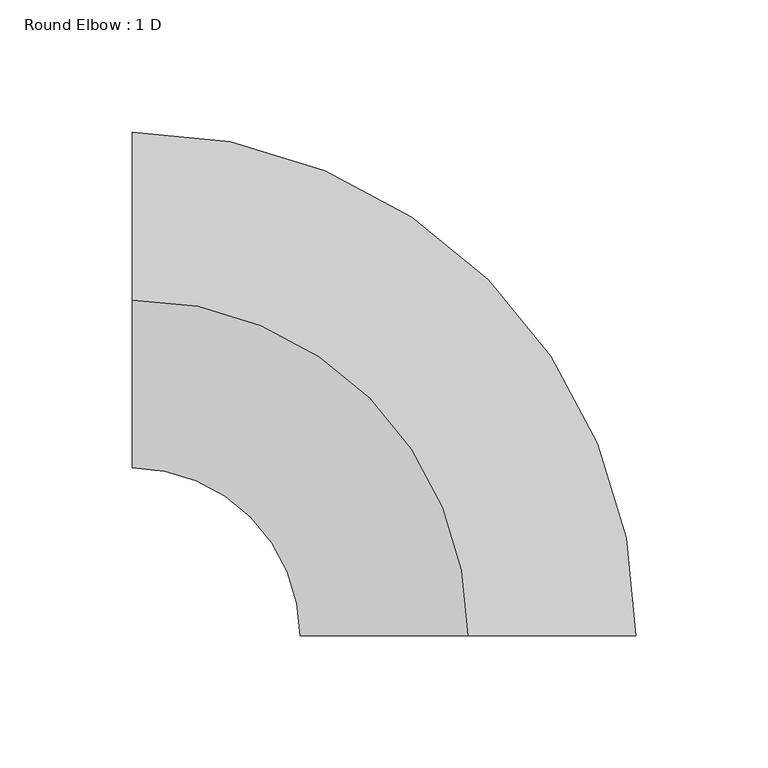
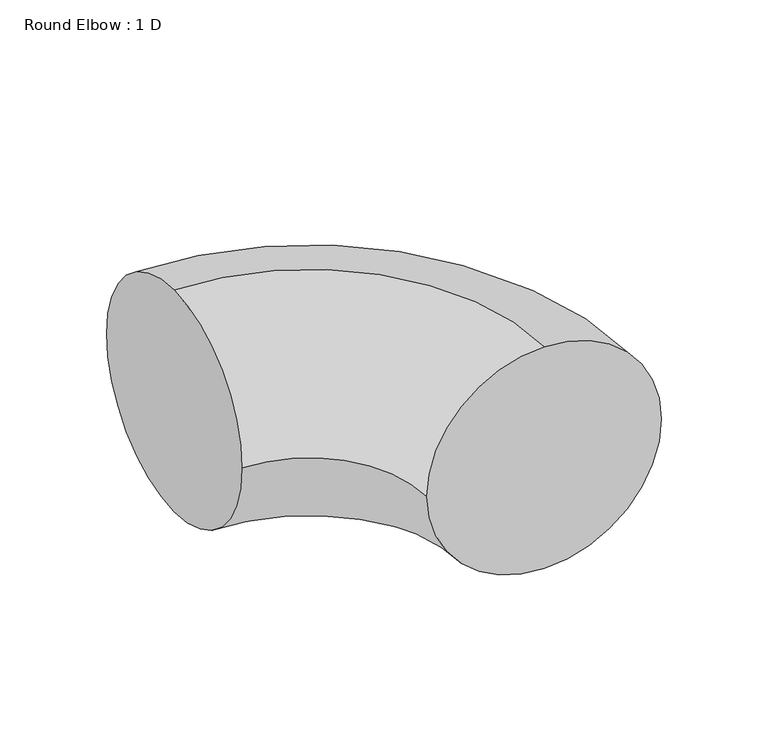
"""IFC4 building model written with IfcOpenShell, lengths in millimetres: duct fitting geometry, Round Elbow : 1 D."""

from ifc_helpers import new_model, si_unit, point, frame, origin, place, context, project, spatial, circle_curve, ellipse_curve, trimmed, source, transform, mapped, element, save
from ifc_brep_helpers import plane_surface, revolved_surface, advanced_brep


def round_elbow_1_d_400cd2ab(model_context):
    return source(origin(), model_context, "Body", "AdvancedBrep", [
        advanced_brep(
        [(-127.0, 0.0, 63.5), (-127.0, 63.5, 0.0), (-127.0, 0.0, -63.5), (-127.0, -63.5, 0.0), (0.0, -127.0, 63.5), (-63.5, -127.0, 0.0), (0.0, -127.0, -63.5), (63.5, -127.0, 0.0)],
        [
            (0, 1, circle_curve(frame((-127.0, 0.0, 0.0), z_axis=(-1.0, 0.0, 0.0), x_axis=(0.0, -1.0, 0.0)), 63.5)),
            (1, 2, circle_curve(frame((-127.0, 0.0, 0.0), z_axis=(-1.0, 0.0, 0.0), x_axis=(0.0, -1.0, 0.0)), 63.5)),
            (2, 3, circle_curve(frame((-127.0, 0.0, 0.0), z_axis=(-1.0, 0.0, 0.0), x_axis=(0.0, -1.0, 0.0)), 63.5)),
            (3, 0, circle_curve(frame((-127.0, 0.0, 0.0), z_axis=(-1.0, 0.0, 0.0), x_axis=(0.0, -1.0, 0.0)), 63.5)),
            (4, 5, circle_curve(frame((0.0, -127.0, 0.0), z_axis=(0.0, -1.0, 0.0), x_axis=(-1.0, 0.0, 0.0)), 63.5)),
            (5, 6, circle_curve(frame((0.0, -127.0, 0.0), z_axis=(0.0, -1.0, 0.0), x_axis=(-1.0, 0.0, 0.0)), 63.5)),
            (6, 7, circle_curve(frame((0.0, -127.0, 0.0), z_axis=(0.0, -1.0, 0.0), x_axis=(-1.0, 0.0, 0.0)), 63.5)),
            (7, 4, circle_curve(frame((0.0, -127.0, 0.0), z_axis=(0.0, -1.0, 0.0), x_axis=(-1.0, 0.0, 0.0)), 63.5)),
            (4, 0, circle_curve(frame((-127.0, -127.0, 63.5), z_axis=(0.0, 0.0, 1.0), x_axis=(0.0, 1.0, 0.0)), 127.0)),
            (3, 5, circle_curve(frame((-127.0, -127.0, 0.0), z_axis=(0.0, 0.0, -1.0), x_axis=(0.0, 1.0, 0.0)), 63.5)),
            (2, 6, circle_curve(frame((-127.0, -127.0, -63.5), z_axis=(0.0, 0.0, -1.0), x_axis=(0.0, 1.0, 0.0)), 127.0)),
            (1, 7, circle_curve(frame((-127.0, -127.0, 0.0), z_axis=(0.0, 0.0, -1.0), x_axis=(0.0, 1.0, 0.0)), 190.5)),
        ],
        [
            plane_surface(frame((-127.0, 0.0, 0.0), z_axis=(-1.0, 0.0, 0.0), x_axis=(0.0, 0.0, 1.0))),
            plane_surface(frame((0.0, -127.0, 0.0), z_axis=(0.0, -1.0, 0.0), x_axis=(0.0, 0.0, 1.0))),
            revolved_surface(trimmed(ellipse_curve(frame((-127.0, 0.0, 0.0), z_axis=(1.0, 0.0, 0.0), x_axis=(0.0, -1.0, 0.0)), 63.5, 63.5), [point((-127.0, 0.0, 63.5))], [point((-127.0, -63.5, 0.0))], True, "CARTESIAN"), (-127.0, -127.0, 0.0), (0.0, 0.0, 1.0)),
            revolved_surface(trimmed(ellipse_curve(frame((-127.0, 0.0, 0.0), z_axis=(1.0, 0.0, 0.0), x_axis=(0.0, -1.0, 0.0)), 63.5, 63.5), [point((-127.0, -63.5, 0.0))], [point((-127.0, 0.0, -63.5))], True, "CARTESIAN"), (-127.0, -127.0, 0.0), (0.0, 0.0, 1.0)),
            revolved_surface(trimmed(ellipse_curve(frame((-127.0, 0.0, 0.0), z_axis=(1.0, 0.0, 0.0), x_axis=(0.0, -1.0, 0.0)), 63.5, 63.5), [point((-127.0, 0.0, -63.5))], [point((-127.0, 63.5, 0.0))], True, "CARTESIAN"), (-127.0, -127.0, 0.0), (0.0, 0.0, 1.0)),
            revolved_surface(trimmed(ellipse_curve(frame((-127.0, 0.0, 0.0), z_axis=(1.0, 0.0, 0.0), x_axis=(0.0, -1.0, 0.0)), 63.5, 63.5), [point((-127.0, 63.5, 0.0))], [point((-127.0, 0.0, 63.5))], True, "CARTESIAN"), (-127.0, -127.0, 0.0), (0.0, 0.0, 1.0)),
        ],
        [
            (0, [[1, 2, 3, 4]]),
            (1, [[5, 6, 7, 8]]),
            (2, [[-5, 9, -4, 10]]),
            (3, [[-6, -10, -3, 11]]),
            (4, [[-7, -11, -2, 12]]),
            (5, [[-8, -12, -1, -9]]),
        ],
    ),
    ])


if __name__ == "__main__":
    model = new_model("IFC4")
    model_context = context("Model", 3, world=origin())
    ifc_project = project(units=[si_unit("LENGTHUNIT", "METRE", prefix="MILLI")], contexts=[model_context])
    site = spatial("IfcSite", under=ifc_project)
    building = spatial("IfcBuilding", under=site)
    placement = place(None, origin())
    round_elbow_1_d_shape = round_elbow_1_d_400cd2ab(model_context)
    element("IfcDuctFitting", 1, ObjectType="Round Elbow : 1 D", at=placement, inside=building, context=model_context, shape_type="MappedRepresentation", body=[
        mapped(round_elbow_1_d_shape, transform((0.0, 0.0, 0.0), x_axis=(1.0, 0.0, 0.0), y_axis=(0.0, 1.0, 0.0), z_axis=(0.0, 0.0, 1.0))),
    ])
    save(model, "model.ifc")
